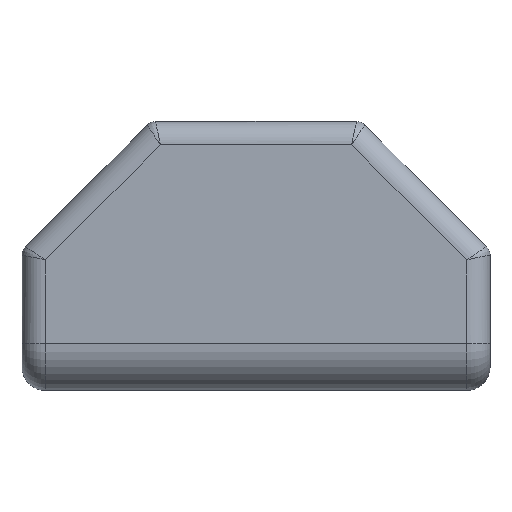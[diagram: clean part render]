
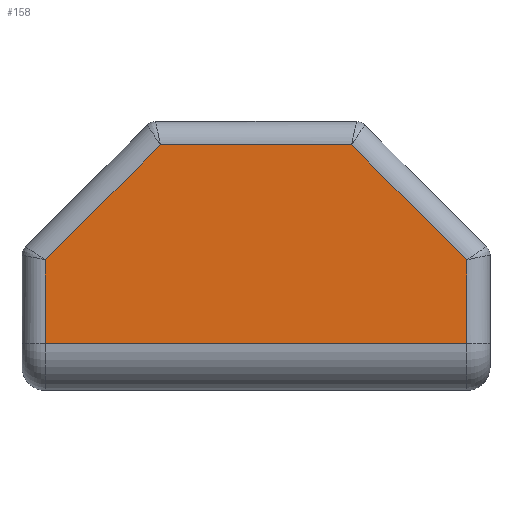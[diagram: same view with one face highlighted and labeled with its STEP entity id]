
A CAD part, left-side view. The second image highlights one B-rep face of the part: STEP entity #158.
In plain terms, the highlighted planar face has unit normal (-1, 0, 0).
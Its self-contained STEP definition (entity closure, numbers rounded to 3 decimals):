
#150 = VERTEX_POINT ( 'NONE', #683 ) ;
#151 = EDGE_CURVE ( 'NONE', #156, #175, #713, .T. ) ;
#155 = VERTEX_POINT ( 'NONE', #650 ) ;
#156 = VERTEX_POINT ( 'NONE', #776 ) ;
#158 = ADVANCED_FACE ( 'NONE', ( #772 ), #780, .F. ) ;
#159 = ORIENTED_EDGE ( 'NONE', *, *, #151, .T. ) ;
#160 = ORIENTED_EDGE ( 'NONE', *, *, #187, .T. ) ;
#161 = VERTEX_POINT ( 'NONE', #781 ) ;
#162 = ORIENTED_EDGE ( 'NONE', *, *, #199, .T. ) ;
#163 = VERTEX_POINT ( 'NONE', #695 ) ;
#175 = VERTEX_POINT ( 'NONE', #749 ) ;
#178 = EDGE_LOOP ( 'NONE', ( #160, #159, #195, #198, #162, #194 ) ) ;
#187 = EDGE_CURVE ( 'NONE', #155, #156, #737, .T. ) ;
#193 = EDGE_CURVE ( 'NONE', #175, #150, #762, .T. ) ;
#194 = ORIENTED_EDGE ( 'NONE', *, *, #200, .T. ) ;
#195 = ORIENTED_EDGE ( 'NONE', *, *, #193, .T. ) ;
#196 = EDGE_CURVE ( 'NONE', #150, #163, #735, .T. ) ;
#198 = ORIENTED_EDGE ( 'NONE', *, *, #196, .T. ) ;
#199 = EDGE_CURVE ( 'NONE', #163, #161, #754, .T. ) ;
#200 = EDGE_CURVE ( 'NONE', #161, #155, #751, .T. ) ;
#650 = CARTESIAN_POINT ( 'NONE',  ( 0., 38., 4. ) ) ;
#652 = DIRECTION ( 'NONE',  ( 0., 0., 1. ) ) ;
#653 = VECTOR ( 'NONE', #652, 1000. ) ;
#666 = DIRECTION ( 'NONE',  ( 0., 0., -1. ) ) ;
#667 = VECTOR ( 'NONE', #666, 1000. ) ;
#668 = CARTESIAN_POINT ( 'NONE',  ( 0., 38., 0. ) ) ;
#683 = CARTESIAN_POINT ( 'NONE',  ( 0., 11.828, 21. ) ) ;
#692 = DIRECTION ( 'NONE',  ( 0., 0., -1. ) ) ;
#695 = CARTESIAN_POINT ( 'NONE',  ( 0., 28.172, 21. ) ) ;
#712 = CARTESIAN_POINT ( 'NONE',  ( 0., 2., 0. ) ) ;
#713 = LINE ( 'NONE', #712, #653 ) ;
#714 = AXIS2_PLACEMENT_3D ( 'NONE', #774, #773, #692 ) ;
#734 = CARTESIAN_POINT ( 'NONE',  ( 0., 40., 21. ) ) ;
#735 = LINE ( 'NONE', #734, #757 ) ;
#736 = CARTESIAN_POINT ( 'NONE',  ( 0., 40., 4. ) ) ;
#737 = LINE ( 'NONE', #736, #768 ) ;
#749 = CARTESIAN_POINT ( 'NONE',  ( 0., 2., 11.172 ) ) ;
#751 = LINE ( 'NONE', #668, #667 ) ;
#752 = DIRECTION ( 'NONE',  ( 0., 0.707, -0.707 ) ) ;
#753 = VECTOR ( 'NONE', #752, 1000. ) ;
#754 = LINE ( 'NONE', #756, #753 ) ;
#756 = CARTESIAN_POINT ( 'NONE',  ( 0., 44.586, 4.586 ) ) ;
#757 = VECTOR ( 'NONE', #763, 1000. ) ;
#759 = DIRECTION ( 'NONE',  ( 0., 0.707, 0.707 ) ) ;
#760 = VECTOR ( 'NONE', #759, 1000. ) ;
#761 = CARTESIAN_POINT ( 'NONE',  ( 0., 15.414, 24.586 ) ) ;
#762 = LINE ( 'NONE', #761, #760 ) ;
#763 = DIRECTION ( 'NONE',  ( 0., 1., 0. ) ) ;
#767 = DIRECTION ( 'NONE',  ( 0., -1., 0. ) ) ;
#768 = VECTOR ( 'NONE', #767, 1000. ) ;
#772 = FACE_OUTER_BOUND ( 'NONE', #178, .T. ) ;
#773 = DIRECTION ( 'NONE',  ( 1., 0., 0. ) ) ;
#774 = CARTESIAN_POINT ( 'NONE',  ( 0., 40., 0. ) ) ;
#776 = CARTESIAN_POINT ( 'NONE',  ( 0., 2., 4. ) ) ;
#780 = PLANE ( 'NONE',  #714 ) ;
#781 = CARTESIAN_POINT ( 'NONE',  ( 0., 38., 11.172 ) ) ;
